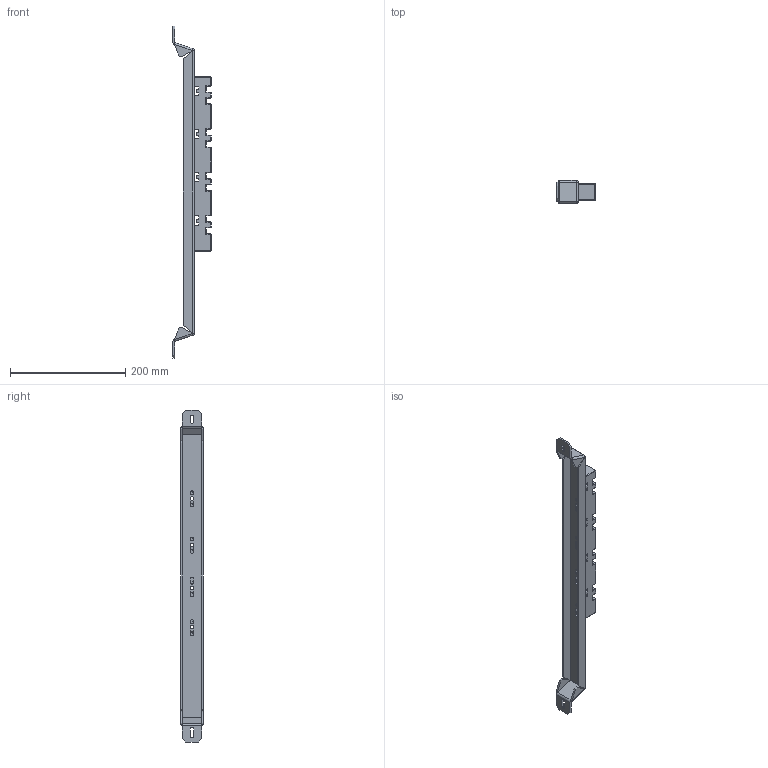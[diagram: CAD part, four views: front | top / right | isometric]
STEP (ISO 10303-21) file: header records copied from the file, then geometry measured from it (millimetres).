
FILE_DESCRIPTION((''),'2;1');
FILE_NAME('NSYBVS600_ASM','2015-12-29T',('sesa80307'),('Schneider-Electric'),'PRO/ENGINEER BY PARAMETRIC TECHNOLOGY CORPORATION, 2014310','PRO/ENGINEER BY PARAMETRIC TECHNOLOGY CORPORATION, 2014310','');
FILE_SCHEMA(('CONFIG_CONTROL_DESIGN'));
Length unit declared in the file: millimetre
Products named in the file (3): ENNA0773001; GHQ2007000_MIG32; NSYBVS600_ASM
Assembly tree (2 placements, depth 2):
  NSYBVS600_ASM
    ENNA0773001
    GHQ2007000_MIG32
Bounding box: 66 x 39.2 x 575.5 mm (x, y, z)
Volume: 308942.2 mm3; surface area: 130890.4 mm2
Topology: 2 solids, 2 shells, 906 faces, 2355 edges, 1494 vertices
Faces by surface type: plane 669, cylinder 181, sphere 36, torus 12, bspline 8
Entity records: 27619 total; most frequent: CARTESIAN_POINT 5206, ORIENTED_EDGE 4710, DIRECTION 4443, EDGE_CURVE 2355, VECTOR 1993, LINE 1993, VERTEX_POINT 1494, AXIS2_PLACEMENT_3D 1225
